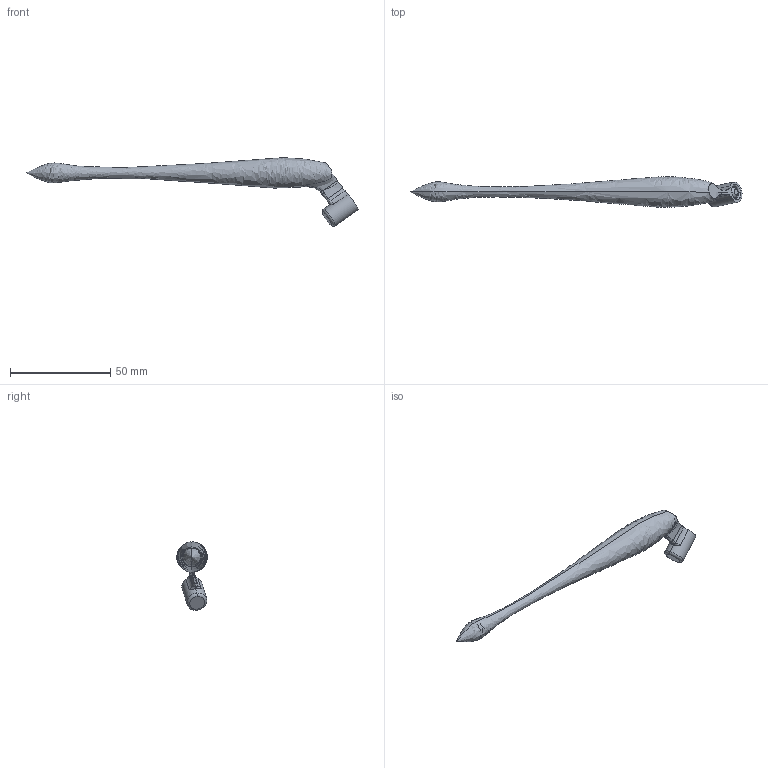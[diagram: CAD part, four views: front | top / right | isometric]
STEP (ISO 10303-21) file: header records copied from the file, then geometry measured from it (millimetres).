
FILE_DESCRIPTION (( 'STEP AP203' ), '1' );
FILE_NAME ('Oblique ZebraG V1.STEP', '2019-10-26T04:07:19', ( '' ), ( '' ), 'SwSTEP 2.0', 'SolidWorks 2018', '' );
FILE_SCHEMA (( 'CONFIG_CONTROL_DESIGN' ));
Length unit declared in the file: inch
Products named in the file (1): Oblique ZebraG V1
Bounding box: 165.39 x 15.25 x 34.2 mm (x, y, z)
Volume: 12896.8 mm3; surface area: 5695.7 mm2
Topology: 1 solids, 1 shells, 50 faces, 122 edges, 71 vertices
Faces by surface type: bspline 22, cylinder 8, plane 8, torus 6, cone 4, sphere 2
Entity records: 4485 total; most frequent: CARTESIAN_POINT 3449, ORIENTED_EDGE 236, DIRECTION 139, EDGE_CURVE 118, VERTEX_POINT 71, B_SPLINE_CURVE_WITH_KNOTS 69, AXIS2_PLACEMENT_3D 61, EDGE_LOOP 51
